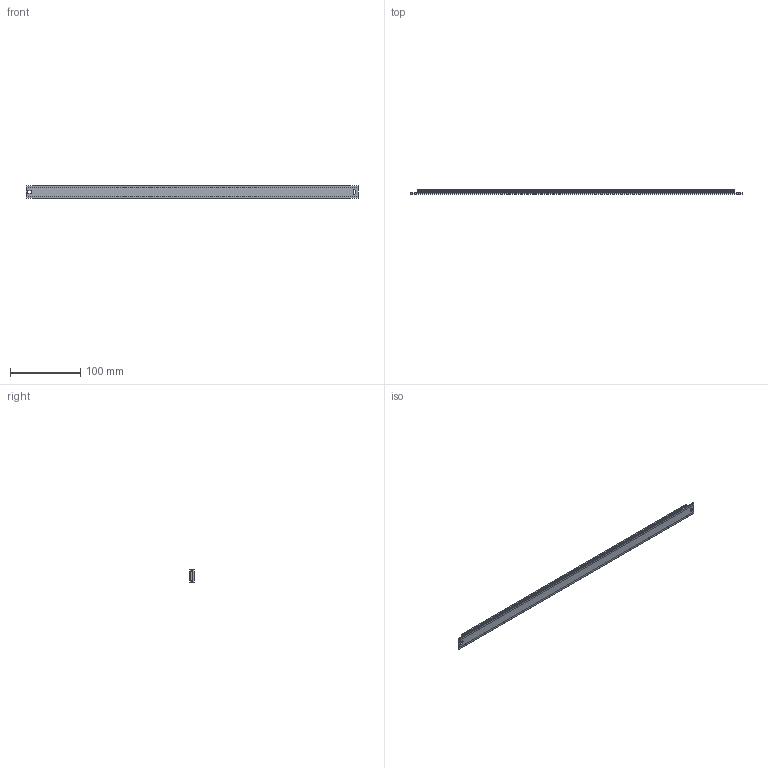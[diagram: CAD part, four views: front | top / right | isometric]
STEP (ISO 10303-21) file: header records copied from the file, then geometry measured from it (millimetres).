
FILE_DESCRIPTION (( 'STEP AP214' ), '1' );
FILE_NAME ('SAScale_exposed.ScaleLneght472.STEP', '2026-03-10T09:11:12', ( '' ), ( '' ), 'SwSTEP 2.0', 'SolidWorks 2024', '' );
FILE_SCHEMA (( 'AUTOMOTIVE_DESIGN' ));
Length unit declared in the file: millimetre
Products named in the file (1): SAScale_exposed.ScaleLneght472
Bounding box: 472 x 6 x 18 mm (x, y, z)
Volume: 45847 mm3; surface area: 40001.2 mm2
Topology: 2 solids, 2 shells, 52 faces, 141 edges, 94 vertices
Faces by surface type: plane 37, cylinder 15
Entity records: 2247 total; most frequent: CARTESIAN_POINT 288, ORIENTED_EDGE 282, DIRECTION 277, EDGE_CURVE 141, VECTOR 111, LINE 111, VERTEX_POINT 94, AXIS2_PLACEMENT_3D 83
